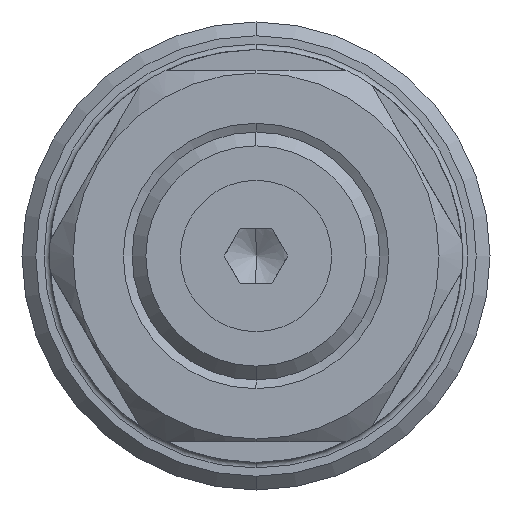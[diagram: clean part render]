
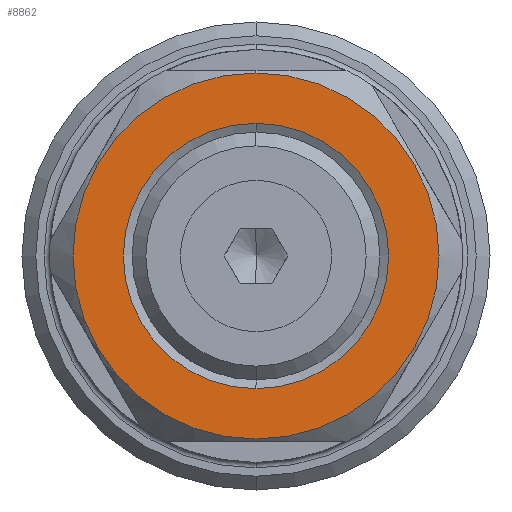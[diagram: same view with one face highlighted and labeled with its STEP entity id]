
A CAD part, left-side view. The second image highlights one B-rep face of the part: STEP entity #8862.
In plain terms, the highlighted planar face has unit normal (-1, 0, 0).
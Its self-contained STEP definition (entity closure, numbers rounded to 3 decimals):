
#387 = CARTESIAN_POINT ( 'NONE',  ( -78., 13.3, 0. ) ) ;
#590 = DIRECTION ( 'NONE',  ( 1., 0., 0. ) ) ;
#842 = CARTESIAN_POINT ( 'NONE',  ( -78., 0., 13.3 ) ) ;
#999 = ORIENTED_EDGE ( 'NONE', *, *, #1074, .F. ) ;
#1074 = EDGE_CURVE ( 'NONE', #2088, #12702, #9239, .T. ) ;
#1411 = DIRECTION ( 'NONE',  ( 0., 0., 1. ) ) ;
#1900 = CARTESIAN_POINT ( 'NONE',  ( -78., 0., 0. ) ) ;
#1930 = CARTESIAN_POINT ( 'NONE',  ( -78., 0., -9.636 ) ) ;
#1968 = FACE_OUTER_BOUND ( 'NONE', #10475, .T. ) ;
#2088 = VERTEX_POINT ( 'NONE', #842 ) ;
#3296 = DIRECTION ( 'NONE',  ( 0., 0., 1. ) ) ;
#3341 = AXIS2_PLACEMENT_3D ( 'NONE', #1900, #8999, #4024 ) ;
#4024 = DIRECTION ( 'NONE',  ( 0., 0., -1. ) ) ;
#4365 = DIRECTION ( 'NONE',  ( 1., 0., 0. ) ) ;
#4763 = CARTESIAN_POINT ( 'NONE',  ( -78., 0., 9.636 ) ) ;
#5267 = AXIS2_PLACEMENT_3D ( 'NONE', #387, #11348, #1411 ) ;
#5382 = ORIENTED_EDGE ( 'NONE', *, *, #8634, .T. ) ;
#5504 = CARTESIAN_POINT ( 'NONE',  ( -78., 0., 0. ) ) ;
#6211 = AXIS2_PLACEMENT_3D ( 'NONE', #12266, #7252, #3296 ) ;
#6250 = ORIENTED_EDGE ( 'NONE', *, *, #6662, .F. ) ;
#6662 = EDGE_CURVE ( 'NONE', #12702, #2088, #7116, .T. ) ;
#6684 = DIRECTION ( 'NONE',  ( 0., 0., -1. ) ) ;
#7116 = CIRCLE ( 'NONE', #9028, 13.3 ) ;
#7252 = DIRECTION ( 'NONE',  ( 1., 0., 0. ) ) ;
#7583 = CIRCLE ( 'NONE', #12332, 9.636 ) ;
#8225 = VERTEX_POINT ( 'NONE', #4763 ) ;
#8634 = EDGE_CURVE ( 'NONE', #8225, #9228, #7583, .T. ) ;
#8862 = ADVANCED_FACE ( 'NONE', ( #10569, #1968 ), #12321, .T. ) ;
#8923 = EDGE_LOOP ( 'NONE', ( #5382, #9528 ) ) ;
#8999 = DIRECTION ( 'NONE',  ( 1., 0., 0. ) ) ;
#9028 = AXIS2_PLACEMENT_3D ( 'NONE', #5504, #590, #6684 ) ;
#9228 = VERTEX_POINT ( 'NONE', #1930 ) ;
#9239 = CIRCLE ( 'NONE', #3341, 13.3 ) ;
#9398 = DIRECTION ( 'NONE',  ( 0., 0., 1. ) ) ;
#9528 = ORIENTED_EDGE ( 'NONE', *, *, #9845, .T. ) ;
#9845 = EDGE_CURVE ( 'NONE', #9228, #8225, #12711, .T. ) ;
#10392 = CARTESIAN_POINT ( 'NONE',  ( -78., 0., -13.3 ) ) ;
#10416 = CARTESIAN_POINT ( 'NONE',  ( -78., 0., 0. ) ) ;
#10475 = EDGE_LOOP ( 'NONE', ( #6250, #999 ) ) ;
#10569 = FACE_BOUND ( 'NONE', #8923, .T. ) ;
#11348 = DIRECTION ( 'NONE',  ( -1., 0., 0. ) ) ;
#12266 = CARTESIAN_POINT ( 'NONE',  ( -78., 0., 0. ) ) ;
#12321 = PLANE ( 'NONE',  #5267 ) ;
#12332 = AXIS2_PLACEMENT_3D ( 'NONE', #10416, #4365, #9398 ) ;
#12702 = VERTEX_POINT ( 'NONE', #10392 ) ;
#12711 = CIRCLE ( 'NONE', #6211, 9.636 ) ;
